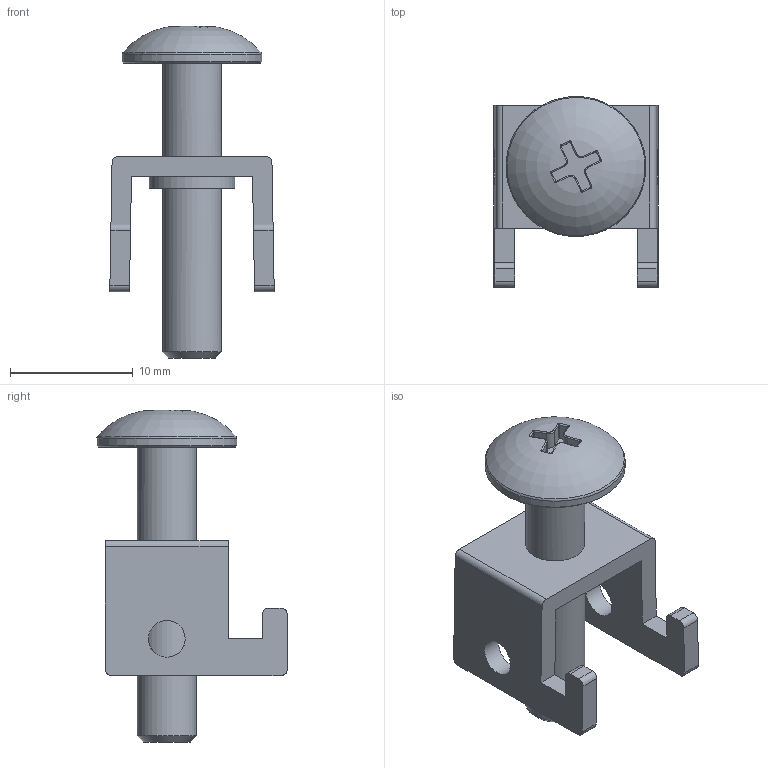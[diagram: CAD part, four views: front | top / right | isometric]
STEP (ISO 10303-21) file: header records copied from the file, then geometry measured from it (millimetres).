
FILE_DESCRIPTION (( 'STEP AP214' ), '1' );
FILE_NAME ('CPi粽塭鰍.STEP', '2018-11-21T06:11:23', ( 'luke' ), ( '' ), 'SwSTEP 2.0', 'SolidWorks 2016', '' );
FILE_SCHEMA (( 'AUTOMOTIVE_DESIGN' ));
Length unit declared in the file: millimetre
Products named in the file (1): CPi粽塭鰍
Bounding box: 13.38 x 15.49 x 27.02 mm (x, y, z)
Volume: 1180.3 mm3; surface area: 1464.3 mm2
Topology: 1 solids, 1 shells, 90 faces, 227 edges, 143 vertices
Faces by surface type: plane 34, cylinder 28, bspline 24, cone 2, torus 2
Full cylindrical faces by diameter (mm): 3 x2, 4.8 x2, 7 x1, 11.4 x1
Entity records: 3078 total; most frequent: CARTESIAN_POINT 1155, ORIENTED_EDGE 426, DIRECTION 330, EDGE_CURVE 213, VERTEX_POINT 139, AXIS2_PLACEMENT_3D 118, EDGE_LOOP 108, FACE_OUTER_BOUND 98
